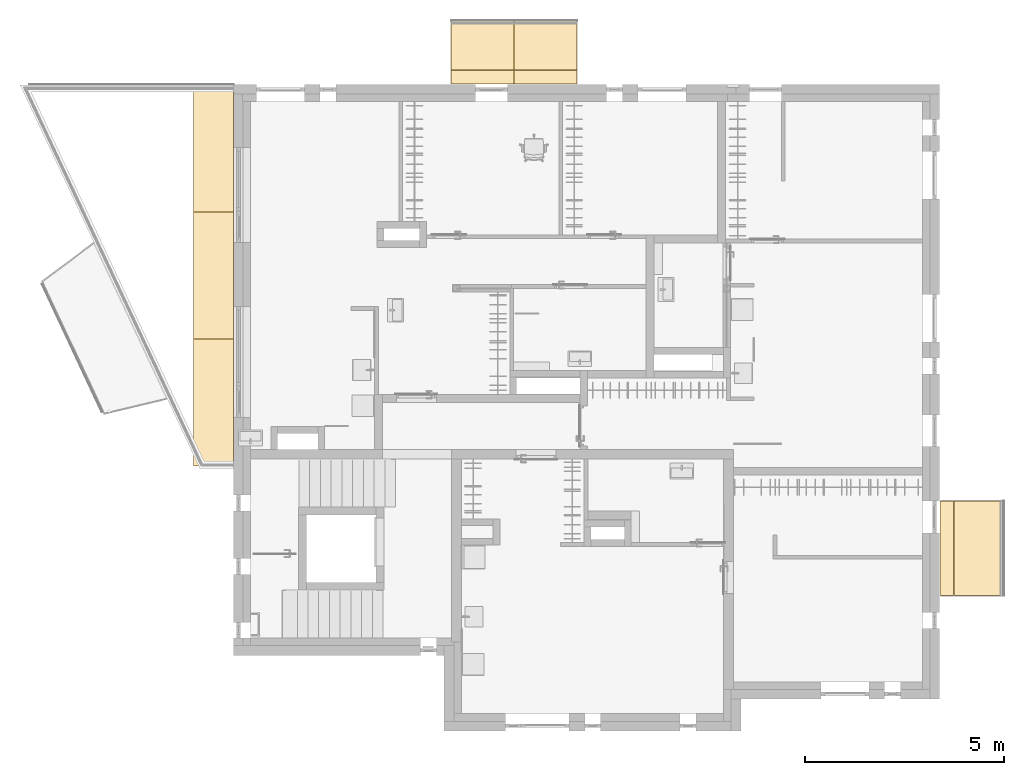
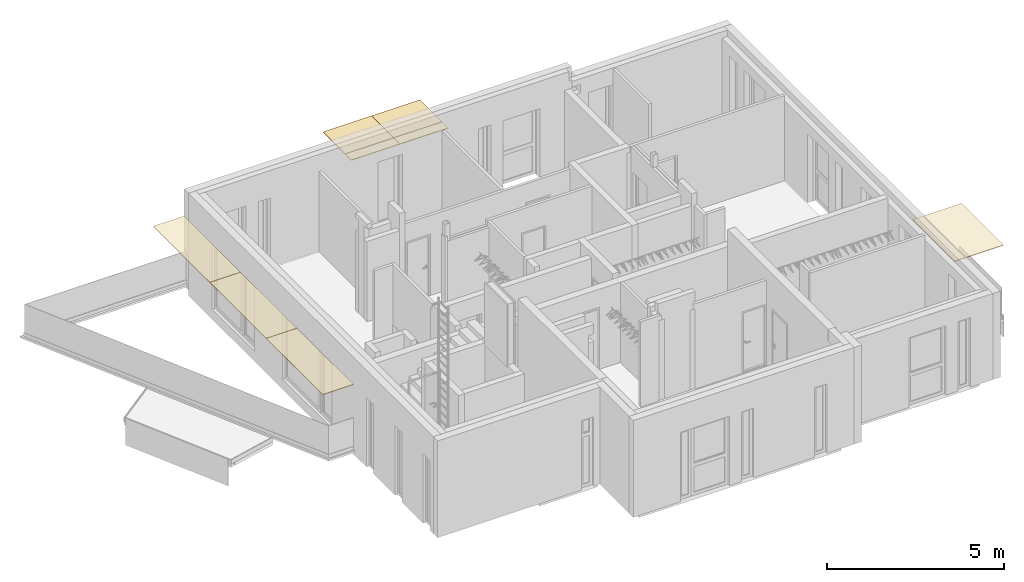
# One storey, part 12 of 42: 9 coverings.
"""IFC2X3 building model written with IfcOpenShell, lengths in millimetres."""

from ifc_helpers import new_model, entity, si_unit, converted_unit, direction, frame, frame_2d, origin, origin_2d_with_axis, place, context, subcontext, project, spatial, rectangle, extrude, material, layer, layer_set, layer_usage, type_object, element, save


model = new_model("IFC2X3")

# Units and contexts
model_context = context("Model", 3, precision=0.01, world=origin(), true_north=direction((6.123233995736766e-17, 1.0)))
plan_context = context("Plan", 3, precision=0.01, world=origin(), true_north=direction((6.123233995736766e-17, 1.0)))
body_context = subcontext(model_context, "Body", "Model", "MODEL_VIEW")
ifc_project = project(units=[si_unit("LENGTHUNIT", "METRE", prefix="MILLI"), converted_unit("PLANEANGLEUNIT", "DEGREE", entity("IfcPlaneAngleMeasure", 0.017453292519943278), si_unit("PLANEANGLEUNIT", "RADIAN"), dimensions=[0, 0, 0, 0, 0, 0, 0]), si_unit("AREAUNIT", "SQUARE_METRE")], contexts=[model_context, plan_context])

# Site, building, storey
site_placement = place(None, origin())
site = spatial("IfcSite", under=ifc_project, at=site_placement, Name="Default", CompositionType="ELEMENT")
building_placement = place(site_placement, origin())
building = spatial("IfcBuilding", under=site, at=building_placement, CompositionType="ELEMENT")
storey_placement = place(building_placement, frame((0.0, 0.0, 9465.000076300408)))
storey = spatial("IfcBuildingStorey", under=building, at=storey_placement, Name="4K", CompositionType="ELEMENT", Elevation=9465.000076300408)

# Coverings
ifc_material_1 = material(Name="_K. Õhk. Roov. Fassaadikatte alusroov. Horisontaalne. 25 mm")
ifc_layer_1 = layer(ifc_material_1, 16.0)
ifc_material_2 = material(Name="_K. Välisviimistlus. Alumiinium-komposiitplaat")
ifc_layer_2 = layer(ifc_material_2, 4.0)
ifc_layer_set = layer_set([ifc_layer_1, ifc_layer_2], Name="Compound Ceiling:Valge rõdud")
ifc_layer_usage_1 = layer_usage(ifc_layer_set, "AXIS3", "NEGATIVE", 20.0)
covering_type = type_object("IfcCoveringType", Name="Compound Ceiling:Valge rõdud", PredefinedType="CEILING")
covering_1_placement = place(storey_placement, frame((17692.0, 2971.986588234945, 2407.4999236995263)))
element("IfcCovering", 1, at=covering_1_placement, inside=storey, type_object=covering_type, material=ifc_layer_usage_1, Name="Compound Ceiling:Valge rõdud", ObjectType="Compound Ceiling:Valge rõdud", PredefinedType="CEILING", context=body_context, shape_type="SweptSolid", body=[
    extrude(rectangle(XDim=1249.9999999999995, YDim=2379.366823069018, at=frame_2d((1.1368683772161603e-12, -2.3874235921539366e-12), x_axis=(1.0, 0.0))), frame((625.0, 1189.6834115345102, 0.0), z_axis=(0.0, 0.0, 1.0), x_axis=(-1.0, 0.0, 0.0)), (0.0, 0.0, 1.0), 19.999999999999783),
])
ifc_layer_usage_2 = layer_usage(ifc_layer_set, "AXIS3", "NEGATIVE", 20.0)
covering_2_placement = place(storey_placement, frame((17338.0, 2971.986588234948, 2407.4999236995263)))
element("IfcCovering", 2, at=covering_2_placement, inside=storey, type_object=covering_type, material=ifc_layer_usage_2, Name="Compound Ceiling:Valge rõdud", ObjectType="Compound Ceiling:Valge rõdud", PredefinedType="CEILING", context=body_context, shape_type="SweptSolid", body=[
    extrude(rectangle(XDim=348.9999999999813, YDim=2379.3668230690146, at=frame_2d((0.0, -2.2737367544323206e-13), x_axis=(1.0, 0.0))), frame((174.49999999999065, 1189.6834115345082, 0.0), z_axis=(0.0, 0.0, 1.0), x_axis=(-1.0, 0.0, 0.0)), (0.0, 0.0, 1.0), 19.999999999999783),
])
ifc_layer_usage_3 = layer_usage(ifc_layer_set, "AXIS3", "NEGATIVE", 20.0)
covering_3_placement = place(storey_placement, frame((5040.416588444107, 16192.0, 2407.499923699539)))
element("IfcCovering", 3, at=covering_3_placement, inside=storey, type_object=covering_type, material=ifc_layer_usage_3, Name="Compound Ceiling:Valge rõdud", ObjectType="Compound Ceiling:Valge rõdud", PredefinedType="CEILING", context=body_context, shape_type="SweptSolid", body=[
    extrude(rectangle(XDim=1582.2917057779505, YDim=1249.9999999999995, at=frame_2d((-1.6484591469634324e-12, 1.1368683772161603e-12), x_axis=(1.0, 0.0))), frame((791.145852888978, 625.0, 0.0)), (0.0, 0.0, 1.0), 19.999999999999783),
])
ifc_layer_usage_4 = layer_usage(ifc_layer_set, "AXIS3", "NEGATIVE", 20.0)
covering_4_placement = place(storey_placement, frame((6627.7082942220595, 16192.0, 2407.499923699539)))
element("IfcCovering", 4, at=covering_4_placement, inside=storey, type_object=covering_type, material=ifc_layer_usage_4, Name="Compound Ceiling:Valge rõdud", ObjectType="Compound Ceiling:Valge rõdud", PredefinedType="CEILING", context=body_context, shape_type="SweptSolid", body=[
    extrude(rectangle(XDim=1249.9999999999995, YDim=1582.2917057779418, at=frame_2d((1.0800249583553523e-12, -1.1368683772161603e-12), x_axis=(1.0, 0.0))), frame((791.1458528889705, 625.0, 0.0), z_axis=(0.0, 0.0, 1.0), x_axis=(0.0, 1.0, 0.0)), (0.0, 0.0, 1.0), 19.999999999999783),
])
ifc_layer_usage_5 = layer_usage(ifc_layer_set, "AXIS3", "NEGATIVE", 20.0)
covering_5_placement = place(storey_placement, frame((5040.416588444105, 15838.0, 2407.499923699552)))
element("IfcCovering", 5, at=covering_5_placement, inside=storey, type_object=covering_type, material=ifc_layer_usage_5, Name="Compound Ceiling:Valge rõdud", ObjectType="Compound Ceiling:Valge rõdud", PredefinedType="CEILING", context=body_context, shape_type="SweptSolid", body=[
    extrude(rectangle(XDim=1582.2917057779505, YDim=348.9999999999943, at=origin_2d_with_axis()), frame((791.1458528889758, 174.49999999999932, 0.0)), (0.0, 0.0, 1.0), 19.999999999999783),
])
ifc_layer_usage_6 = layer_usage(ifc_layer_set, "AXIS3", "NEGATIVE", 20.0)
covering_6_placement = place(storey_placement, frame((6627.708294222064, 15838.0, 2407.499923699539)))
element("IfcCovering", 6, at=covering_6_placement, inside=storey, type_object=covering_type, material=ifc_layer_usage_6, Name="Compound Ceiling:Valge rõdud", ObjectType="Compound Ceiling:Valge rõdud", PredefinedType="CEILING", context=body_context, shape_type="SweptSolid", body=[
    extrude(rectangle(XDim=348.9999999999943, YDim=1582.291705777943, at=frame_2d((0.0, -5.115907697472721e-13), x_axis=(1.0, 0.0))), frame((791.1458528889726, 174.49999999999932, 0.0), z_axis=(0.0, 0.0, 1.0), x_axis=(0.0, 1.0, 0.0)), (0.0, 0.0, 1.0), 19.999999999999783),
])
ifc_layer_usage_7 = layer_usage(ifc_layer_set, "AXIS3", "NEGATIVE", 20.0)
covering_7_placement = place(storey_placement, frame((-1441.8828656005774, 12621.99658844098, 2400.0)))
element("IfcCovering", 7, at=covering_7_placement, inside=storey, type_object=covering_type, material=ifc_layer_usage_7, Name="Compound Ceiling:Valge rõdud", ObjectType="Compound Ceiling:Valge rõdud", PredefinedType="CEILING", context=body_context, shape_type="SweptSolid", body=[
    extrude(rectangle(XDim=3200.0, YDim=1003.8828656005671, at=frame_2d((0.0, -1.043076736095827e-11), x_axis=(1.0, 0.0))), frame((501.94143280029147, 1600.0, 0.0), z_axis=(0.0, 0.0, 1.0), x_axis=(0.0, -1.0, 0.0)), (0.0, 0.0, 1.0), 19.999999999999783),
])
ifc_layer_usage_8 = layer_usage(ifc_layer_set, "AXIS3", "NEGATIVE", 20.0)
covering_8_placement = place(storey_placement, frame((-1441.8828656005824, 9432.983411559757, 2400.0)))
element("IfcCovering", 8, at=covering_8_placement, inside=storey, type_object=covering_type, material=ifc_layer_usage_8, Name="Compound Ceiling:Valge rõdud", ObjectType="Compound Ceiling:Valge rõdud", PredefinedType="CEILING", context=body_context, shape_type="SweptSolid", body=[
    extrude(rectangle(XDim=3184.0131768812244, YDim=1003.8828656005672, at=frame_2d((5.684341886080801e-13, -1.0174971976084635e-11), x_axis=(1.0, 0.0))), frame((501.9414328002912, 1592.0065884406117, 0.0), z_axis=(0.0, 0.0, 1.0), x_axis=(0.0, -1.0, 0.0)), (0.0, 0.0, 1.0), 19.999999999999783),
])
ifc_layer_usage_9 = layer_usage(ifc_layer_set, "AXIS3", "NEGATIVE", 20.0)
covering_9_placement = place(storey_placement, frame((-1441.8828656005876, 6227.983411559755, 2400.0)))
element("IfcCovering", 9, at=covering_9_placement, inside=storey, type_object=covering_type, material=ifc_layer_usage_9, Name="Compound Ceiling:Valge rõdud", ObjectType="Compound Ceiling:Valge rõdud", PredefinedType="CEILING", context=body_context, shape_type="SweptSolid", body=[
    extrude(rectangle(XDim=3200.0, YDim=1003.8828656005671, at=frame_2d((0.0, -1.043076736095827e-11), x_axis=(1.0, 0.0))), frame((501.94143280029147, 1600.0, 0.0), z_axis=(0.0, 0.0, 1.0), x_axis=(0.0, -1.0, 0.0)), (0.0, 0.0, 1.0), 19.999999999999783),
])

save(model, "model.ifc")
